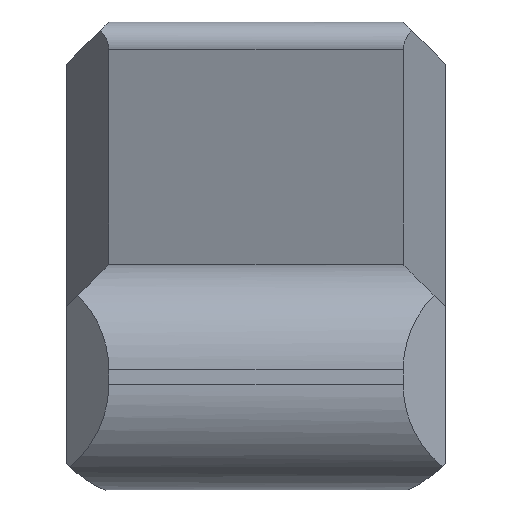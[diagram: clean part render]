
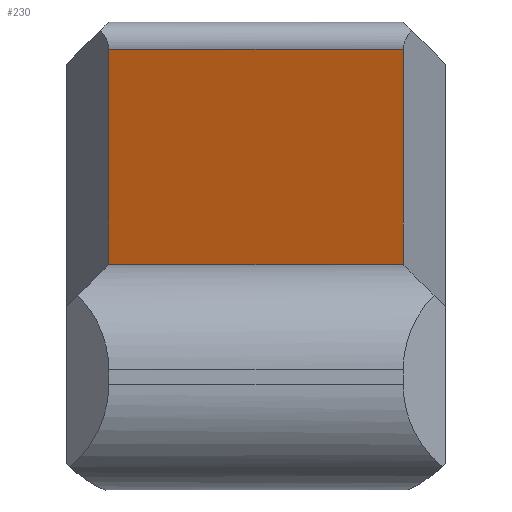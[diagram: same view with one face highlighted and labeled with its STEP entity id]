
A CAD part, top view. The second image highlights one B-rep face of the part: STEP entity #230.
In plain terms, the highlighted planar face has unit normal (0, -0.3, 0.954).
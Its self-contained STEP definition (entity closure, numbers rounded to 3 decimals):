
#191=CARTESIAN_POINT('',(9.,323.722,-80.998));
#192=DIRECTION('',(0.,0.3,-0.954));
#193=DIRECTION('',(-0.,0.954,0.3));
#194=AXIS2_PLACEMENT_3D('',#191,#192,#193);
#195=PLANE('',#194);
#196=CARTESIAN_POINT('',(7.,317.944,-82.814));
#197=VERTEX_POINT('',#196);
#198=CARTESIAN_POINT('',(7.,328.2,-79.59));
#199=VERTEX_POINT('',#198);
#200=CARTESIAN_POINT('',(7.,317.944,-82.814));
#201=DIRECTION('',(0.,0.954,0.3));
#202=VECTOR('',#201,10.75);
#203=LINE('',#200,#202);
#204=EDGE_CURVE('',#197,#199,#203,.T.);
#205=ORIENTED_EDGE('',*,*,#204,.T.);
#206=CARTESIAN_POINT('',(-7.,328.2,-79.59));
#207=VERTEX_POINT('',#206);
#208=CARTESIAN_POINT('',(7.,328.2,-79.59));
#209=DIRECTION('',(-1.,0.,-0.));
#210=VECTOR('',#209,14.);
#211=LINE('',#208,#210);
#212=EDGE_CURVE('',#199,#207,#211,.T.);
#213=ORIENTED_EDGE('',*,*,#212,.T.);
#214=CARTESIAN_POINT('',(-7.,317.944,-82.814));
#215=VERTEX_POINT('',#214);
#216=CARTESIAN_POINT('',(-7.,328.2,-79.59));
#217=DIRECTION('',(-0.,-0.954,-0.3));
#218=VECTOR('',#217,10.75);
#219=LINE('',#216,#218);
#220=EDGE_CURVE('',#207,#215,#219,.T.);
#221=ORIENTED_EDGE('',*,*,#220,.T.);
#222=CARTESIAN_POINT('',(7.,317.944,-82.814));
#223=DIRECTION('',(-1.,0.,0.));
#224=VECTOR('',#223,14.);
#225=LINE('',#222,#224);
#226=EDGE_CURVE('',#197,#215,#225,.T.);
#227=ORIENTED_EDGE('',*,*,#226,.F.);
#228=EDGE_LOOP('',(#205,#213,#221,#227));
#229=FACE_BOUND('',#228,.T.);
#230=ADVANCED_FACE('',(#229),#195,.F.);
